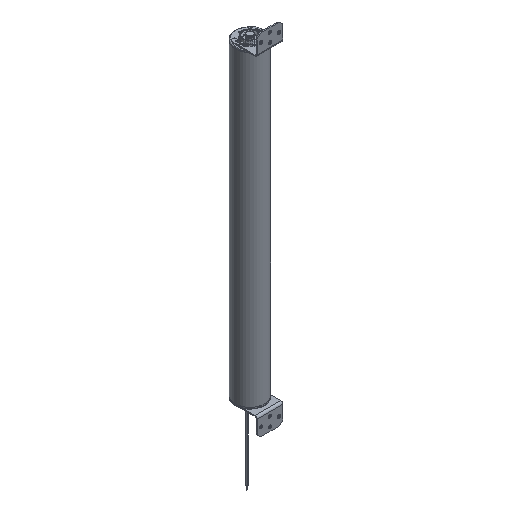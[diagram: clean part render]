
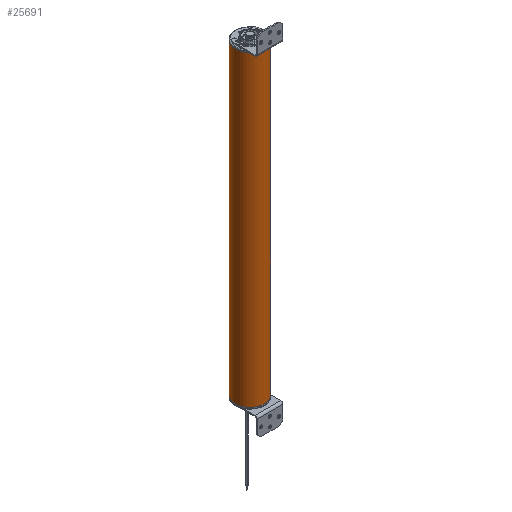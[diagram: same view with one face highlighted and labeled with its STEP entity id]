
A CAD part, isometric view. The second image highlights one B-rep face of the part: STEP entity #25691.
In plain terms, the highlighted cylindrical face has radius 40 mm (diameter 80 mm), a partial arc.
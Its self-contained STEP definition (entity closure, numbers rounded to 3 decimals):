
#1343 = DIRECTION ( 'NONE',  ( 0., 0., -1. ) ) ;
#1452 = DIRECTION ( 'NONE',  ( 0., 0., -1. ) ) ;
#1936 = EDGE_LOOP ( 'NONE', ( #3053, #38959, #29758, #8102 ) ) ;
#3053 = ORIENTED_EDGE ( 'NONE', *, *, #23585, .T. ) ;
#5190 = EDGE_CURVE ( 'NONE', #36020, #29787, #37151, .T. ) ;
#8102 = ORIENTED_EDGE ( 'NONE', *, *, #28530, .F. ) ;
#9584 = FACE_OUTER_BOUND ( 'NONE', #1936, .T. ) ;
#12712 = EDGE_CURVE ( 'NONE', #32756, #36020, #35951, .T. ) ;
#12869 = DIRECTION ( 'NONE',  ( 0., 0., 1. ) ) ;
#13038 = DIRECTION ( 'NONE',  ( 0., 0., -1. ) ) ;
#14205 = AXIS2_PLACEMENT_3D ( 'NONE', #22583, #17640, #26621 ) ;
#17640 = DIRECTION ( 'NONE',  ( 0., 0., -1. ) ) ;
#22583 = CARTESIAN_POINT ( 'NONE',  ( 0., 0., 840.7 ) ) ;
#22611 = CYLINDRICAL_SURFACE ( 'NONE', #25828, 40. ) ;
#23370 = CARTESIAN_POINT ( 'NONE',  ( -40., 0., 840.7 ) ) ;
#23585 = EDGE_CURVE ( 'NONE', #38810, #32756, #26572, .T. ) ;
#25257 = CARTESIAN_POINT ( 'NONE',  ( 40., 0., 840.7 ) ) ;
#25491 = CARTESIAN_POINT ( 'NONE',  ( 0., 0., 840.7 ) ) ;
#25691 = ADVANCED_FACE ( 'NONE', ( #9584 ), #22611, .T. ) ;
#25828 = AXIS2_PLACEMENT_3D ( 'NONE', #25491, #13038, #34279 ) ;
#26572 = CIRCLE ( 'NONE', #14205, 40. ) ;
#26621 = DIRECTION ( 'NONE',  ( -1., 0., 0. ) ) ;
#27191 = VECTOR ( 'NONE', #1343, 1000. ) ;
#28530 = EDGE_CURVE ( 'NONE', #38810, #29787, #35840, .T. ) ;
#29758 = ORIENTED_EDGE ( 'NONE', *, *, #5190, .T. ) ;
#29787 = VERTEX_POINT ( 'NONE', #32519 ) ;
#30908 = VECTOR ( 'NONE', #1452, 1000. ) ;
#31432 = CARTESIAN_POINT ( 'NONE',  ( 0., 0., 0. ) ) ;
#32435 = CARTESIAN_POINT ( 'NONE',  ( 40., 0., 0. ) ) ;
#32519 = CARTESIAN_POINT ( 'NONE',  ( -40., 0., 0. ) ) ;
#32559 = AXIS2_PLACEMENT_3D ( 'NONE', #31432, #12869, #37783 ) ;
#32756 = VERTEX_POINT ( 'NONE', #25257 ) ;
#34279 = DIRECTION ( 'NONE',  ( -1., 0., 0. ) ) ;
#35840 = LINE ( 'NONE', #23370, #27191 ) ;
#35951 = LINE ( 'NONE', #38807, #30908 ) ;
#36020 = VERTEX_POINT ( 'NONE', #32435 ) ;
#37151 = CIRCLE ( 'NONE', #32559, 40. ) ;
#37783 = DIRECTION ( 'NONE',  ( -1., 0., 0. ) ) ;
#38807 = CARTESIAN_POINT ( 'NONE',  ( 40., 0., 840.7 ) ) ;
#38810 = VERTEX_POINT ( 'NONE', #40303 ) ;
#38959 = ORIENTED_EDGE ( 'NONE', *, *, #12712, .T. ) ;
#40303 = CARTESIAN_POINT ( 'NONE',  ( -40., 0., 840.7 ) ) ;
